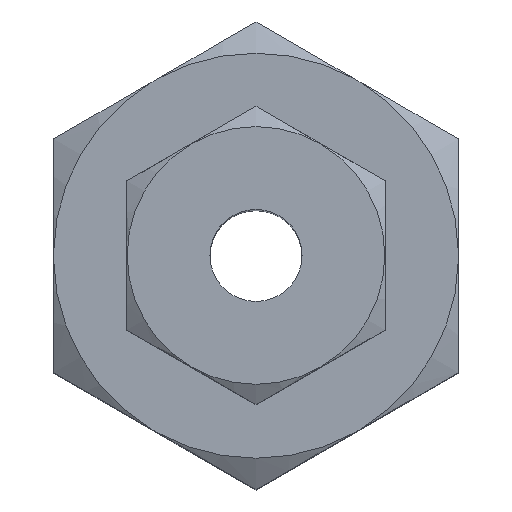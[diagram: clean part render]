
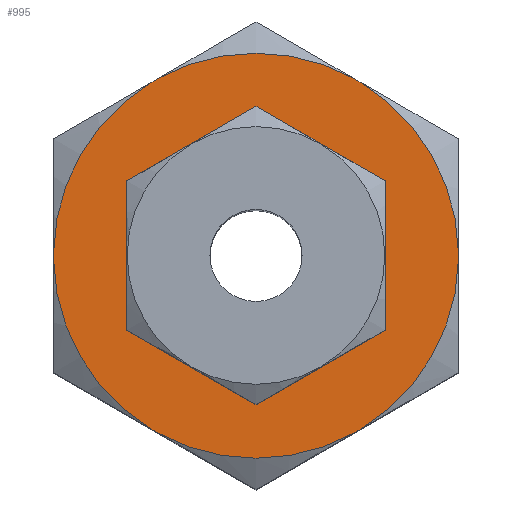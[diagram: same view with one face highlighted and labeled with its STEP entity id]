
A CAD part, top view. The second image highlights one B-rep face of the part: STEP entity #995.
In plain terms, the highlighted planar face has unit normal (0, 0, 1).
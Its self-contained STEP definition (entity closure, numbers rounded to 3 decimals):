
#3 = DIRECTION ( 'NONE',  ( 0., 1., 0. ) ) ;
#11 = CARTESIAN_POINT ( 'NONE',  ( 5.343, -9.615, 15. ) ) ;
#16 = CARTESIAN_POINT ( 'NONE',  ( 0., 0., 15. ) ) ;
#63 = AXIS2_PLACEMENT_3D ( 'NONE', #368, #673, #682 ) ;
#69 = CARTESIAN_POINT ( 'NONE',  ( -10.999, 6.35, 15. ) ) ;
#74 = DIRECTION ( 'NONE',  ( 0., 0., -1. ) ) ;
#76 = CIRCLE ( 'NONE', #716, 11. ) ;
#86 = CARTESIAN_POINT ( 'NONE',  ( 0., 0., 15. ) ) ;
#92 = DIRECTION ( 'NONE',  ( 0., 0., 1. ) ) ;
#96 = EDGE_CURVE ( 'NONE', #749, #885, #424, .T. ) ;
#102 = CARTESIAN_POINT ( 'NONE',  ( 0., -4.865, 15. ) ) ;
#110 = CARTESIAN_POINT ( 'NONE',  ( 0., 0., 15. ) ) ;
#119 = CARTESIAN_POINT ( 'NONE',  ( -10.999, 0.18, 15. ) ) ;
#129 = CARTESIAN_POINT ( 'NONE',  ( -5.343, -9.615, 15. ) ) ;
#130 = AXIS2_PLACEMENT_3D ( 'NONE', #940, #316, #338 ) ;
#131 = EDGE_CURVE ( 'NONE', #805, #563, #888, .T. ) ;
#150 = CARTESIAN_POINT ( 'NONE',  ( 0., 12.7, 15. ) ) ;
#160 = CIRCLE ( 'NONE', #63, 4.865 ) ;
#161 = VECTOR ( 'NONE', #226, 1000. ) ;
#177 = CARTESIAN_POINT ( 'NONE',  ( 10.999, 6.35, 15. ) ) ;
#180 = ORIENTED_EDGE ( 'NONE', *, *, #523, .F. ) ;
#182 = EDGE_CURVE ( 'NONE', #236, #236, #160, .T. ) ;
#186 = AXIS2_PLACEMENT_3D ( 'NONE', #640, #868, #248 ) ;
#208 = DIRECTION ( 'NONE',  ( 0., 1., 0. ) ) ;
#210 = ORIENTED_EDGE ( 'NONE', *, *, #611, .F. ) ;
#215 = LINE ( 'NONE', #660, #897 ) ;
#222 = CARTESIAN_POINT ( 'NONE',  ( 10.999, -0.18, 15. ) ) ;
#225 = CIRCLE ( 'NONE', #318, 11. ) ;
#226 = DIRECTION ( 'NONE',  ( 0., 1., 0. ) ) ;
#228 = ORIENTED_EDGE ( 'NONE', *, *, #182, .T. ) ;
#229 = EDGE_CURVE ( 'NONE', #795, #462, #905, .T. ) ;
#232 = VERTEX_POINT ( 'NONE', #921 ) ;
#236 = VERTEX_POINT ( 'NONE', #102 ) ;
#238 = EDGE_LOOP ( 'NONE', ( #939, #867, #473, #254, #606, #646, #609, #180, #953, #315, #903, #210 ) ) ;
#248 = DIRECTION ( 'NONE',  ( 0., 1., 0. ) ) ;
#250 = LINE ( 'NONE', #177, #525 ) ;
#254 = ORIENTED_EDGE ( 'NONE', *, *, #879, .F. ) ;
#265 = DIRECTION ( 'NONE',  ( -0.866, 0.5, 0. ) ) ;
#279 = VERTEX_POINT ( 'NONE', #11 ) ;
#314 = FACE_BOUND ( 'NONE', #639, .T. ) ;
#315 = ORIENTED_EDGE ( 'NONE', *, *, #382, .F. ) ;
#316 = DIRECTION ( 'NONE',  ( 0., 0., -1. ) ) ;
#318 = AXIS2_PLACEMENT_3D ( 'NONE', #608, #74, #924 ) ;
#334 = CIRCLE ( 'NONE', #963, 11. ) ;
#338 = DIRECTION ( 'NONE',  ( 0., 1., 0. ) ) ;
#343 = DIRECTION ( 'NONE',  ( 0., 0., -1. ) ) ;
#363 = CARTESIAN_POINT ( 'NONE',  ( 10.999, -6.35, 15. ) ) ;
#364 = DIRECTION ( 'NONE',  ( 0., 0., -1. ) ) ;
#368 = CARTESIAN_POINT ( 'NONE',  ( 0., 0., 15. ) ) ;
#382 = EDGE_CURVE ( 'NONE', #885, #232, #334, .T. ) ;
#396 = DIRECTION ( 'NONE',  ( 0., 0., -1. ) ) ;
#399 = EDGE_CURVE ( 'NONE', #706, #579, #250, .T. ) ;
#411 = CARTESIAN_POINT ( 'NONE',  ( 10.999, 0.18, 15. ) ) ;
#424 = LINE ( 'NONE', #363, #685 ) ;
#434 = DIRECTION ( 'NONE',  ( 0.866, -0.5, 0. ) ) ;
#450 = EDGE_CURVE ( 'NONE', #232, #279, #215, .T. ) ;
#461 = CIRCLE ( 'NONE', #186, 11. ) ;
#462 = VERTEX_POINT ( 'NONE', #119 ) ;
#463 = LINE ( 'NONE', #150, #603 ) ;
#473 = ORIENTED_EDGE ( 'NONE', *, *, #510, .F. ) ;
#510 = EDGE_CURVE ( 'NONE', #670, #923, #463, .T. ) ;
#523 = EDGE_CURVE ( 'NONE', #279, #805, #461, .T. ) ;
#525 = VECTOR ( 'NONE', #434, 1000. ) ;
#536 = EDGE_CURVE ( 'NONE', #923, #706, #652, .T. ) ;
#541 = PLANE ( 'NONE',  #636 ) ;
#556 = FACE_OUTER_BOUND ( 'NONE', #238, .T. ) ;
#563 = VERTEX_POINT ( 'NONE', #932 ) ;
#567 = CARTESIAN_POINT ( 'NONE',  ( 5.343, 9.615, 15. ) ) ;
#579 = VERTEX_POINT ( 'NONE', #799 ) ;
#603 = VECTOR ( 'NONE', #850, 1000. ) ;
#606 = ORIENTED_EDGE ( 'NONE', *, *, #229, .F. ) ;
#608 = CARTESIAN_POINT ( 'NONE',  ( 0., 0., 15. ) ) ;
#609 = ORIENTED_EDGE ( 'NONE', *, *, #131, .F. ) ;
#611 = EDGE_CURVE ( 'NONE', #579, #749, #76, .T. ) ;
#633 = VECTOR ( 'NONE', #265, 1000. ) ;
#636 = AXIS2_PLACEMENT_3D ( 'NONE', #86, #92, #933 ) ;
#639 = EDGE_LOOP ( 'NONE', ( #228 ) ) ;
#640 = CARTESIAN_POINT ( 'NONE',  ( 0., 0., 15. ) ) ;
#646 = ORIENTED_EDGE ( 'NONE', *, *, #698, .F. ) ;
#647 = DIRECTION ( 'NONE',  ( 0., 1., 0. ) ) ;
#652 = CIRCLE ( 'NONE', #130, 11. ) ;
#657 = CARTESIAN_POINT ( 'NONE',  ( 0., 0., 15. ) ) ;
#660 = CARTESIAN_POINT ( 'NONE',  ( 0., -12.7, 15. ) ) ;
#670 = VERTEX_POINT ( 'NONE', #722 ) ;
#673 = DIRECTION ( 'NONE',  ( 0., 0., -1. ) ) ;
#674 = CARTESIAN_POINT ( 'NONE',  ( -5.343, 9.615, 15. ) ) ;
#682 = DIRECTION ( 'NONE',  ( 0., -1., 0. ) ) ;
#685 = VECTOR ( 'NONE', #956, 1000. ) ;
#698 = EDGE_CURVE ( 'NONE', #563, #795, #702, .T. ) ;
#702 = CIRCLE ( 'NONE', #833, 11. ) ;
#706 = VERTEX_POINT ( 'NONE', #567 ) ;
#716 = AXIS2_PLACEMENT_3D ( 'NONE', #110, #396, #3 ) ;
#722 = CARTESIAN_POINT ( 'NONE',  ( -5.655, 9.435, 15. ) ) ;
#749 = VERTEX_POINT ( 'NONE', #411 ) ;
#795 = VERTEX_POINT ( 'NONE', #813 ) ;
#798 = CARTESIAN_POINT ( 'NONE',  ( -10.999, -6.35, 15. ) ) ;
#799 = CARTESIAN_POINT ( 'NONE',  ( 5.655, 9.435, 15. ) ) ;
#805 = VERTEX_POINT ( 'NONE', #129 ) ;
#813 = CARTESIAN_POINT ( 'NONE',  ( -10.999, -0.18, 15. ) ) ;
#833 = AXIS2_PLACEMENT_3D ( 'NONE', #657, #364, #208 ) ;
#850 = DIRECTION ( 'NONE',  ( 0.866, 0.5, 0. ) ) ;
#867 = ORIENTED_EDGE ( 'NONE', *, *, #536, .F. ) ;
#868 = DIRECTION ( 'NONE',  ( 0., 0., -1. ) ) ;
#879 = EDGE_CURVE ( 'NONE', #462, #670, #225, .T. ) ;
#885 = VERTEX_POINT ( 'NONE', #222 ) ;
#888 = LINE ( 'NONE', #798, #633 ) ;
#897 = VECTOR ( 'NONE', #987, 1000. ) ;
#903 = ORIENTED_EDGE ( 'NONE', *, *, #96, .F. ) ;
#905 = LINE ( 'NONE', #69, #161 ) ;
#921 = CARTESIAN_POINT ( 'NONE',  ( 5.655, -9.435, 15. ) ) ;
#923 = VERTEX_POINT ( 'NONE', #674 ) ;
#924 = DIRECTION ( 'NONE',  ( 0., 1., 0. ) ) ;
#932 = CARTESIAN_POINT ( 'NONE',  ( -5.655, -9.435, 15. ) ) ;
#933 = DIRECTION ( 'NONE',  ( 0., -1., 0. ) ) ;
#939 = ORIENTED_EDGE ( 'NONE', *, *, #399, .F. ) ;
#940 = CARTESIAN_POINT ( 'NONE',  ( 0., 0., 15. ) ) ;
#953 = ORIENTED_EDGE ( 'NONE', *, *, #450, .F. ) ;
#956 = DIRECTION ( 'NONE',  ( 0., -1., 0. ) ) ;
#963 = AXIS2_PLACEMENT_3D ( 'NONE', #16, #343, #647 ) ;
#987 = DIRECTION ( 'NONE',  ( -0.866, -0.5, 0. ) ) ;
#995 = ADVANCED_FACE ( 'NONE', ( #556, #314 ), #541, .T. ) ;
